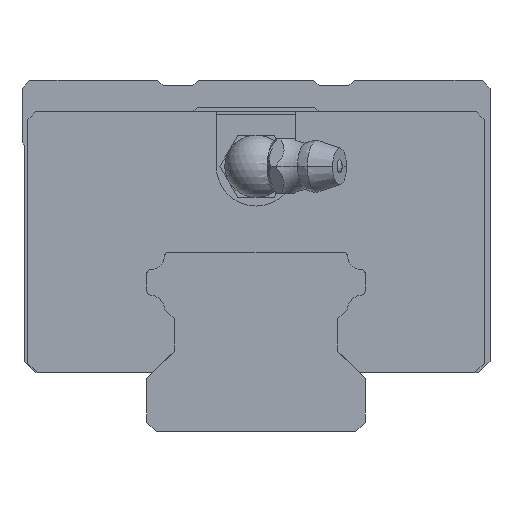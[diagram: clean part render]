
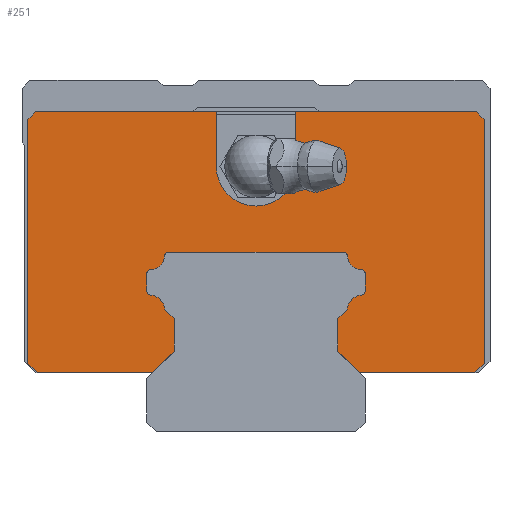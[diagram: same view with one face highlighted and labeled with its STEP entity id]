
A CAD part, front view. The second image highlights one B-rep face of the part: STEP entity #251.
In plain terms, the highlighted planar face has unit normal (0, -1, 0).
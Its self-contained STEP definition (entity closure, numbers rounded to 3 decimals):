
#251=ADVANCED_FACE('',(#578),#579,.F.);
#578=FACE_OUTER_BOUND('',#1072,.T.);
#579=PLANE('',#1073);
#1072=EDGE_LOOP('',(#2094,#2095,#2096,#2097,#2098,#2099,#2100,#2101,#2102,#2103,#2104,#2105,#2106,#2107,#2108,#2109,#2110,#2111,#2112,#2113,#2114,#2115,#2116,#2117,#2118,#2119,#2120,#2121,#2122,#2123,#2124,#2125,#2126));
#1073=AXIS2_PLACEMENT_3D('',#2127,#2128,#2129);
#2094=ORIENTED_EDGE('',*,*,#3625,.F.);
#2095=ORIENTED_EDGE('',*,*,#3626,.T.);
#2096=ORIENTED_EDGE('',*,*,#3627,.T.);
#2097=ORIENTED_EDGE('',*,*,#3628,.T.);
#2098=ORIENTED_EDGE('',*,*,#3629,.T.);
#2099=ORIENTED_EDGE('',*,*,#3630,.T.);
#2100=ORIENTED_EDGE('',*,*,#3631,.F.);
#2101=ORIENTED_EDGE('',*,*,#3632,.F.);
#2102=ORIENTED_EDGE('',*,*,#3593,.F.);
#2103=ORIENTED_EDGE('',*,*,#3633,.F.);
#2104=ORIENTED_EDGE('',*,*,#3634,.T.);
#2105=ORIENTED_EDGE('',*,*,#3635,.T.);
#2106=ORIENTED_EDGE('',*,*,#3636,.T.);
#2107=ORIENTED_EDGE('',*,*,#3637,.T.);
#2108=ORIENTED_EDGE('',*,*,#3638,.T.);
#2109=ORIENTED_EDGE('',*,*,#3639,.F.);
#2110=ORIENTED_EDGE('',*,*,#3640,.F.);
#2111=ORIENTED_EDGE('',*,*,#3641,.F.);
#2112=ORIENTED_EDGE('',*,*,#3642,.F.);
#2113=ORIENTED_EDGE('',*,*,#3643,.F.);
#2114=ORIENTED_EDGE('',*,*,#3644,.F.);
#2115=ORIENTED_EDGE('',*,*,#3645,.F.);
#2116=ORIENTED_EDGE('',*,*,#3646,.F.);
#2117=ORIENTED_EDGE('',*,*,#3647,.F.);
#2118=ORIENTED_EDGE('',*,*,#3648,.F.);
#2119=ORIENTED_EDGE('',*,*,#3649,.F.);
#2120=ORIENTED_EDGE('',*,*,#3650,.F.);
#2121=ORIENTED_EDGE('',*,*,#3651,.F.);
#2122=ORIENTED_EDGE('',*,*,#3652,.F.);
#2123=ORIENTED_EDGE('',*,*,#3653,.F.);
#2124=ORIENTED_EDGE('',*,*,#3654,.F.);
#2125=ORIENTED_EDGE('',*,*,#3655,.F.);
#2126=ORIENTED_EDGE('',*,*,#3656,.F.);
#2127=CARTESIAN_POINT('',(44.9,-26.3,24.35));
#2128=DIRECTION('',(0.0,1.0,0.0));
#2129=DIRECTION('',(1.0,0.0,0.0));
#3593=EDGE_CURVE('',#4370,#4366,#4372,.T.);
#3625=EDGE_CURVE('',#4426,#4427,#4428,.T.);
#3626=EDGE_CURVE('',#4426,#4429,#4430,.T.);
#3627=EDGE_CURVE('',#4429,#4431,#4432,.T.);
#3628=EDGE_CURVE('',#4431,#4433,#4434,.T.);
#3629=EDGE_CURVE('',#4433,#4435,#4436,.T.);
#3630=EDGE_CURVE('',#4435,#4437,#4438,.T.);
#3631=EDGE_CURVE('',#4439,#4437,#4440,.T.);
#3632=EDGE_CURVE('',#4366,#4439,#4441,.T.);
#3633=EDGE_CURVE('',#4442,#4370,#4443,.T.);
#3634=EDGE_CURVE('',#4442,#4444,#4445,.T.);
#3635=EDGE_CURVE('',#4444,#4446,#4447,.T.);
#3636=EDGE_CURVE('',#4446,#4448,#4449,.T.);
#3637=EDGE_CURVE('',#4448,#4450,#4451,.T.);
#3638=EDGE_CURVE('',#4450,#4452,#4453,.T.);
#3639=EDGE_CURVE('',#4454,#4452,#4455,.T.);
#3640=EDGE_CURVE('',#4456,#4454,#4457,.T.);
#3641=EDGE_CURVE('',#4458,#4456,#4459,.T.);
#3642=EDGE_CURVE('',#4460,#4458,#4461,.T.);
#3643=EDGE_CURVE('',#4462,#4460,#4463,.T.);
#3644=EDGE_CURVE('',#4464,#4462,#4465,.T.);
#3645=EDGE_CURVE('',#4466,#4464,#4467,.T.);
#3646=EDGE_CURVE('',#4468,#4466,#4469,.T.);
#3647=EDGE_CURVE('',#4470,#4468,#4471,.T.);
#3648=EDGE_CURVE('',#4472,#4470,#4473,.T.);
#3649=EDGE_CURVE('',#4474,#4472,#4475,.T.);
#3650=EDGE_CURVE('',#4476,#4474,#4477,.T.);
#3651=EDGE_CURVE('',#4478,#4476,#4479,.T.);
#3652=EDGE_CURVE('',#4480,#4478,#4481,.T.);
#3653=EDGE_CURVE('',#4482,#4480,#4483,.T.);
#3654=EDGE_CURVE('',#4484,#4482,#4485,.T.);
#3655=EDGE_CURVE('',#4486,#4484,#4487,.T.);
#3656=EDGE_CURVE('',#4427,#4486,#4488,.T.);
#4366=VERTEX_POINT('',#5510);
#4370=VERTEX_POINT('',#5515);
#4372=CIRCLE('',#5518,5.1);
#4426=VERTEX_POINT('',#5588);
#4427=VERTEX_POINT('',#5589);
#4428=LINE('',#5590,#5591);
#4429=VERTEX_POINT('',#5592);
#4430=LINE('',#5593,#5594);
#4431=VERTEX_POINT('',#5595);
#4432=LINE('',#5596,#5597);
#4433=VERTEX_POINT('',#5598);
#4434=LINE('',#5599,#5600);
#4435=VERTEX_POINT('',#5601);
#4436=LINE('',#5602,#5603);
#4437=VERTEX_POINT('',#5604);
#4438=LINE('',#5605,#5606);
#4439=VERTEX_POINT('',#5607);
#4440=LINE('',#5608,#5609);
#4441=CIRCLE('',#5610,5.1);
#4442=VERTEX_POINT('',#5611);
#4443=LINE('',#5612,#5613);
#4444=VERTEX_POINT('',#5614);
#4445=LINE('',#5615,#5616);
#4446=VERTEX_POINT('',#5617);
#4447=LINE('',#5618,#5619);
#4448=VERTEX_POINT('',#5620);
#4449=LINE('',#5621,#5622);
#4450=VERTEX_POINT('',#5623);
#4451=LINE('',#5624,#5625);
#4452=VERTEX_POINT('',#5626);
#4453=LINE('',#5627,#5628);
#4454=VERTEX_POINT('',#5629);
#4455=LINE('',#5630,#5631);
#4456=VERTEX_POINT('',#5632);
#4457=LINE('',#5633,#5634);
#4458=VERTEX_POINT('',#5635);
#4459=LINE('',#5636,#5637);
#4460=VERTEX_POINT('',#5638);
#4461=CIRCLE('',#5639,2.0);
#4462=VERTEX_POINT('',#5640);
#4463=CIRCLE('',#5641,0.5);
#4464=VERTEX_POINT('',#5642);
#4465=LINE('',#5643,#5644);
#4466=VERTEX_POINT('',#5645);
#4467=CIRCLE('',#5646,0.5);
#4468=VERTEX_POINT('',#5647);
#4469=CIRCLE('',#5648,2.0);
#4470=VERTEX_POINT('',#5649);
#4471=CIRCLE('',#5650,0.5);
#4472=VERTEX_POINT('',#5651);
#4473=LINE('',#5652,#5653);
#4474=VERTEX_POINT('',#5654);
#4475=CIRCLE('',#5655,0.5);
#4476=VERTEX_POINT('',#5656);
#4477=CIRCLE('',#5657,2.0);
#4478=VERTEX_POINT('',#5658);
#4479=CIRCLE('',#5659,0.5);
#4480=VERTEX_POINT('',#5660);
#4481=LINE('',#5661,#5662);
#4482=VERTEX_POINT('',#5663);
#4483=CIRCLE('',#5664,0.5);
#4484=VERTEX_POINT('',#5665);
#4485=CIRCLE('',#5666,2.0);
#4486=VERTEX_POINT('',#5667);
#4487=LINE('',#5668,#5669);
#4488=LINE('',#5670,#5671);
#5510=CARTESIAN_POINT('',(0.,-26.3,28.9));
#5515=CARTESIAN_POINT('',(-5.1,-26.3,34.0));
#5518=AXIS2_PLACEMENT_3D('',#7046,#7047,#7048);
#5588=CARTESIAN_POINT('',(13.3,-26.3,7.5));
#5589=CARTESIAN_POINT('',(10.5,-26.3,10.3));
#5590=CARTESIAN_POINT('',(20.675,-26.3,0.125));
#5591=VECTOR('',#7110,1000.0);
#5592=CARTESIAN_POINT('',(28.05,-26.3,7.5));
#5593=CARTESIAN_POINT('',(-28.05,-26.3,7.5));
#5594=VECTOR('',#7111,1000.0);
#5595=CARTESIAN_POINT('',(29.25,-26.3,8.7));
#5596=CARTESIAN_POINT('',(28.05,-26.3,7.5));
#5597=VECTOR('',#7112,1000.0);
#5598=CARTESIAN_POINT('',(29.25,-26.3,40.0));
#5599=CARTESIAN_POINT('',(29.25,-26.3,8.7));
#5600=VECTOR('',#7113,1000.0);
#5601=CARTESIAN_POINT('',(28.25,-26.3,41.0));
#5602=CARTESIAN_POINT('',(29.25,-26.3,40.0));
#5603=VECTOR('',#7114,1000.0);
#5604=CARTESIAN_POINT('',(5.1,-26.3,41.0));
#5605=CARTESIAN_POINT('',(28.25,-26.3,41.0));
#5606=VECTOR('',#7115,1000.0);
#5607=CARTESIAN_POINT('',(5.1,-26.3,34.0));
#5608=CARTESIAN_POINT('',(5.1,-26.3,34.0));
#5609=VECTOR('',#7116,1000.0);
#5610=AXIS2_PLACEMENT_3D('',#7117,#7118,#7119);
#5611=CARTESIAN_POINT('',(-5.1,-26.3,41.0));
#5612=CARTESIAN_POINT('',(-5.1,-26.3,41.0));
#5613=VECTOR('',#7120,1000.0);
#5614=CARTESIAN_POINT('',(-28.25,-26.3,41.0));
#5615=CARTESIAN_POINT('',(28.25,-26.3,41.0));
#5616=VECTOR('',#7121,1000.0);
#5617=CARTESIAN_POINT('',(-29.25,-26.3,40.0));
#5618=CARTESIAN_POINT('',(-28.25,-26.3,41.0));
#5619=VECTOR('',#7122,1000.0);
#5620=CARTESIAN_POINT('',(-29.25,-26.3,8.7));
#5621=CARTESIAN_POINT('',(-29.25,-26.3,40.0));
#5622=VECTOR('',#7123,1000.0);
#5623=CARTESIAN_POINT('',(-28.05,-26.3,7.5));
#5624=CARTESIAN_POINT('',(-29.25,-26.3,8.7));
#5625=VECTOR('',#7124,1000.0);
#5626=CARTESIAN_POINT('',(-13.3,-26.3,7.5));
#5627=CARTESIAN_POINT('',(-28.05,-26.3,7.5));
#5628=VECTOR('',#7125,1000.0);
#5629=CARTESIAN_POINT('',(-10.5,-26.3,10.3));
#5630=CARTESIAN_POINT('',(24.225,-26.3,45.025));
#5631=VECTOR('',#7126,1000.0);
#5632=CARTESIAN_POINT('',(-10.5,-26.3,14.502));
#5633=CARTESIAN_POINT('',(-10.5,-26.3,24.35));
#5634=VECTOR('',#7127,1000.0);
#5635=CARTESIAN_POINT('',(-11.701,-26.3,15.703));
#5636=CARTESIAN_POINT('',(12.276,-26.3,-8.274));
#5637=VECTOR('',#7128,1000.0);
#5638=CARTESIAN_POINT('',(-13.536,-26.3,17.496));
#5639=AXIS2_PLACEMENT_3D('',#7129,#7130,#7131);
#5640=CARTESIAN_POINT('',(-14.,-26.3,17.995));
#5641=AXIS2_PLACEMENT_3D('',#7132,#7133,#7134);
#5642=CARTESIAN_POINT('',(-14.,-26.3,20.226));
#5643=CARTESIAN_POINT('',(-14.,-26.3,24.35));
#5644=VECTOR('',#7135,1000.0);
#5645=CARTESIAN_POINT('',(-13.536,-26.3,20.725));
#5646=AXIS2_PLACEMENT_3D('',#7136,#7137,#7138);
#5647=CARTESIAN_POINT('',(-11.699,-26.3,22.544));
#5648=AXIS2_PLACEMENT_3D('',#7139,#7140,#7141);
#5649=CARTESIAN_POINT('',(-11.201,-26.3,23.0));
#5650=AXIS2_PLACEMENT_3D('',#7142,#7143,#7144);
#5651=CARTESIAN_POINT('',(11.201,-26.3,23.0));
#5652=CARTESIAN_POINT('',(44.9,-26.3,23.0));
#5653=VECTOR('',#7145,1000.0);
#5654=CARTESIAN_POINT('',(11.699,-26.3,22.544));
#5655=AXIS2_PLACEMENT_3D('',#7146,#7147,#7148);
#5656=CARTESIAN_POINT('',(13.536,-26.3,20.725));
#5657=AXIS2_PLACEMENT_3D('',#7149,#7150,#7151);
#5658=CARTESIAN_POINT('',(14.,-26.3,20.226));
#5659=AXIS2_PLACEMENT_3D('',#7152,#7153,#7154);
#5660=CARTESIAN_POINT('',(14.,-26.3,17.995));
#5661=CARTESIAN_POINT('',(14.,-26.3,24.35));
#5662=VECTOR('',#7155,1000.0);
#5663=CARTESIAN_POINT('',(13.536,-26.3,17.496));
#5664=AXIS2_PLACEMENT_3D('',#7156,#7157,#7158);
#5665=CARTESIAN_POINT('',(11.701,-26.3,15.703));
#5666=AXIS2_PLACEMENT_3D('',#7159,#7160,#7161);
#5667=CARTESIAN_POINT('',(10.5,-26.3,14.502));
#5668=CARTESIAN_POINT('',(32.624,-26.3,36.626));
#5669=VECTOR('',#7162,1000.0);
#5670=CARTESIAN_POINT('',(10.5,-26.3,24.35));
#5671=VECTOR('',#7163,1000.0);
#7046=CARTESIAN_POINT('',(0.0,-26.3,34.0));
#7047=DIRECTION('',(0.0,-1.0,0.0));
#7048=DIRECTION('',(-1.0,0.0,0.0));
#7110=DIRECTION('',(-0.707,0.0,0.707));
#7111=DIRECTION('',(1.0,0.0,0.0));
#7112=DIRECTION('',(0.707,0.0,0.707));
#7113=DIRECTION('',(0.0,0.0,1.0));
#7114=DIRECTION('',(-0.707,0.0,0.707));
#7115=DIRECTION('',(-1.0,0.0,0.0));
#7116=DIRECTION('',(0.0,0.0,1.0));
#7117=CARTESIAN_POINT('',(0.0,-26.3,34.0));
#7118=DIRECTION('',(0.0,-1.0,0.0));
#7119=DIRECTION('',(-1.0,0.0,0.0));
#7120=DIRECTION('',(0.0,0.0,-1.0));
#7121=DIRECTION('',(-1.0,0.0,0.0));
#7122=DIRECTION('',(-0.707,0.0,-0.707));
#7123=DIRECTION('',(0.0,0.0,-1.0));
#7124=DIRECTION('',(0.707,0.0,-0.707));
#7125=DIRECTION('',(1.0,0.0,0.0));
#7126=DIRECTION('',(-0.707,0.0,-0.707));
#7127=DIRECTION('',(0.0,0.0,-1.0));
#7128=DIRECTION('',(0.707,0.0,-0.707));
#7129=CARTESIAN_POINT('',(-13.691,-26.3,15.502));
#7130=DIRECTION('',(0.0,1.0,0.0));
#7131=DIRECTION('',(0.0,0.0,1.0));
#7132=CARTESIAN_POINT('',(-13.5,-26.3,17.995));
#7133=DIRECTION('',(0.0,-1.0,0.0));
#7134=DIRECTION('',(0.0,0.0,1.0));
#7135=DIRECTION('',(0.0,0.0,-1.0));
#7136=CARTESIAN_POINT('',(-13.5,-26.3,20.226));
#7137=DIRECTION('',(0.0,-1.0,0.0));
#7138=DIRECTION('',(0.0,0.0,1.0));
#7139=CARTESIAN_POINT('',(-13.691,-26.3,22.719));
#7140=DIRECTION('',(0.0,1.0,0.0));
#7141=DIRECTION('',(0.0,0.0,1.0));
#7142=CARTESIAN_POINT('',(-11.201,-26.3,22.5));
#7143=DIRECTION('',(0.0,-1.0,0.0));
#7144=DIRECTION('',(0.0,0.0,1.0));
#7145=DIRECTION('',(-1.0,0.0,0.));
#7146=CARTESIAN_POINT('',(11.201,-26.3,22.5));
#7147=DIRECTION('',(0.0,-1.0,0.0));
#7148=DIRECTION('',(0.0,0.0,1.0));
#7149=CARTESIAN_POINT('',(13.691,-26.3,22.719));
#7150=DIRECTION('',(0.0,1.0,0.0));
#7151=DIRECTION('',(0.0,0.0,1.0));
#7152=CARTESIAN_POINT('',(13.5,-26.3,20.226));
#7153=DIRECTION('',(0.0,-1.0,0.0));
#7154=DIRECTION('',(0.0,0.0,1.0));
#7155=DIRECTION('',(0.0,0.0,1.0));
#7156=CARTESIAN_POINT('',(13.5,-26.3,17.995));
#7157=DIRECTION('',(0.0,-1.0,0.0));
#7158=DIRECTION('',(0.0,0.0,1.0));
#7159=CARTESIAN_POINT('',(13.691,-26.3,15.502));
#7160=DIRECTION('',(0.0,1.0,0.0));
#7161=DIRECTION('',(0.0,0.0,1.0));
#7162=DIRECTION('',(0.707,0.0,0.707));
#7163=DIRECTION('',(0.0,0.0,1.0));
